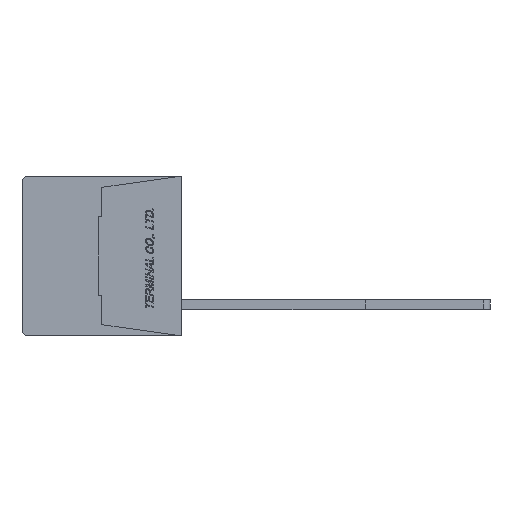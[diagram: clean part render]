
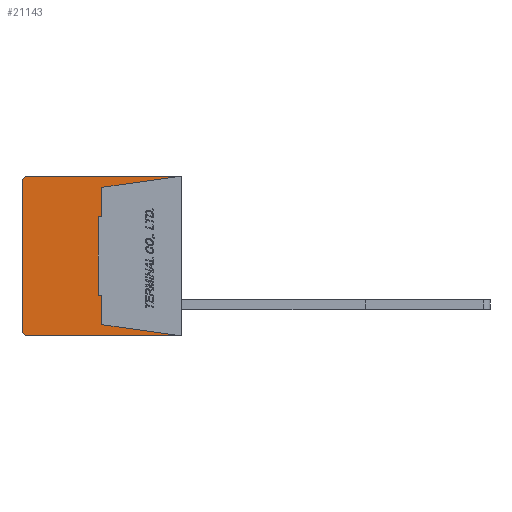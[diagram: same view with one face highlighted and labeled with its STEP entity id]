
A CAD part, left-side view. The second image highlights one B-rep face of the part: STEP entity #21143.
In plain terms, the highlighted planar face has unit normal (-1, 0, 0).
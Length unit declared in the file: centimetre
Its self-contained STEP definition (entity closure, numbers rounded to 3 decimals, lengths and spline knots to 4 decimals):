
#1123=CIRCLE('',#36068,0.05);
#1124=CIRCLE('',#36071,0.05);
#2140=VERTEX_POINT('',#30066);
#2141=VERTEX_POINT('',#30068);
#2142=VERTEX_POINT('',#30072);
#2143=VERTEX_POINT('',#30076);
#2144=VERTEX_POINT('',#30080);
#2145=VERTEX_POINT('',#30084);
#2146=VERTEX_POINT('',#30087);
#2147=VERTEX_POINT('',#30089);
#2148=VERTEX_POINT('',#30091);
#2149=VERTEX_POINT('',#30093);
#2150=VERTEX_POINT('',#30095);
#2151=VERTEX_POINT('',#30097);
#4326=VECTOR('',#24543,1.);
#4330=VECTOR('',#24552,1.);
#4333=VECTOR('',#24560,1.);
#4334=VECTOR('',#24561,1.);
#4335=VECTOR('',#24562,1.);
#4336=VECTOR('',#24563,1.);
#4337=VECTOR('',#24564,1.);
#4338=VECTOR('',#24565,1.);
#4339=VECTOR('',#24566,1.);
#4340=VECTOR('',#24567,1.);
#6811=LINE('',#30067,#4326);
#6815=LINE('',#30077,#4330);
#6818=LINE('',#30085,#4333);
#6819=LINE('',#30086,#4334);
#6820=LINE('',#30088,#4335);
#6821=LINE('',#30090,#4336);
#6822=LINE('',#30092,#4337);
#6823=LINE('',#30094,#4338);
#6824=LINE('',#30096,#4339);
#6825=LINE('',#30098,#4340);
#9657=EDGE_CURVE('',#2141,#2140,#6811,.T.);
#9660=EDGE_CURVE('',#2142,#2140,#1123,.T.);
#9662=EDGE_CURVE('',#2142,#2143,#6815,.T.);
#9664=EDGE_CURVE('',#2144,#2143,#1124,.T.);
#9666=EDGE_CURVE('',#2144,#2145,#6818,.T.);
#9667=EDGE_CURVE('',#2146,#2141,#6819,.T.);
#9668=EDGE_CURVE('',#2145,#2147,#6820,.T.);
#9669=EDGE_CURVE('',#2147,#2148,#6821,.T.);
#9670=EDGE_CURVE('',#2148,#2149,#6822,.T.);
#9671=EDGE_CURVE('',#2149,#2150,#6823,.T.);
#9672=EDGE_CURVE('',#2150,#2151,#6824,.T.);
#9673=EDGE_CURVE('',#2151,#2146,#6825,.T.);
#14063=ORIENTED_EDGE('',*,*,#9667,.T.);
#14064=ORIENTED_EDGE('',*,*,#9657,.T.);
#14065=ORIENTED_EDGE('',*,*,#9660,.F.);
#14066=ORIENTED_EDGE('',*,*,#9662,.T.);
#14067=ORIENTED_EDGE('',*,*,#9664,.F.);
#14068=ORIENTED_EDGE('',*,*,#9666,.T.);
#14069=ORIENTED_EDGE('',*,*,#9668,.T.);
#14070=ORIENTED_EDGE('',*,*,#9669,.T.);
#14071=ORIENTED_EDGE('',*,*,#9670,.T.);
#14072=ORIENTED_EDGE('',*,*,#9671,.T.);
#14073=ORIENTED_EDGE('',*,*,#9672,.T.);
#14074=ORIENTED_EDGE('',*,*,#9673,.T.);
#18471=EDGE_LOOP('',(#14063,#14064,#14065,#14066,#14067,#14068,#14069,#14070,
#14071,#14072,#14073,#14074));
#19846=FACE_BOUND('',#18471,.T.);
#21143=ADVANCED_FACE('',(#19846),#22226,.F.);
#22226=PLANE('',#36065);
#24429=DIRECTION('',(1.,0.,0.));
#24543=DIRECTION('',(0.,1.,0.));
#24548=DIRECTION('',(1.,0.,0.));
#24549=DIRECTION('',(0.,0.,-0.05));
#24552=DIRECTION('',(0.,0.,-1.));
#24556=DIRECTION('',(1.,0.,0.));
#24557=DIRECTION('',(0.,0.,-0.05));
#24560=DIRECTION('',(0.,-1.,0.));
#24561=DIRECTION('',(0.,-0.99,0.139));
#24562=DIRECTION('',(0.,0.99,0.139));
#24563=DIRECTION('',(0.,0.,1.));
#24564=DIRECTION('',(0.,1.,0.));
#24565=DIRECTION('',(0.,0.,1.));
#24566=DIRECTION('',(0.,-1.,0.));
#24567=DIRECTION('',(0.,0.,1.));
#29633=CARTESIAN_POINT('',(-0.889,0.6345,0.));
#30066=CARTESIAN_POINT('',(-0.889,1.23,0.64));
#30067=CARTESIAN_POINT('',(-0.889,0.,0.64));
#30068=CARTESIAN_POINT('',(-0.889,0.,0.64));
#30072=CARTESIAN_POINT('',(-0.889,1.28,0.59));
#30073=CARTESIAN_POINT('',(-0.889,1.23,0.59));
#30076=CARTESIAN_POINT('',(-0.889,1.28,-0.59));
#30077=CARTESIAN_POINT('',(-0.889,1.28,0.59));
#30080=CARTESIAN_POINT('',(-0.889,1.23,-0.64));
#30081=CARTESIAN_POINT('',(-0.889,1.23,-0.59));
#30084=CARTESIAN_POINT('',(-0.889,0.,-0.64));
#30085=CARTESIAN_POINT('',(-0.889,1.23,-0.64));
#30086=CARTESIAN_POINT('',(-0.889,0.64,0.55));
#30087=CARTESIAN_POINT('',(-0.889,0.64,0.55));
#30088=CARTESIAN_POINT('',(-0.889,0.,-0.64));
#30089=CARTESIAN_POINT('',(-0.889,0.64,-0.55));
#30090=CARTESIAN_POINT('',(-0.889,0.64,-0.55));
#30091=CARTESIAN_POINT('',(-0.889,0.64,-0.315));
#30092=CARTESIAN_POINT('',(-0.889,0.64,-0.315));
#30093=CARTESIAN_POINT('',(-0.889,0.67,-0.315));
#30094=CARTESIAN_POINT('',(-0.889,0.67,-0.315));
#30095=CARTESIAN_POINT('',(-0.889,0.67,0.315));
#30096=CARTESIAN_POINT('',(-0.889,0.67,0.315));
#30097=CARTESIAN_POINT('',(-0.889,0.64,0.315));
#30098=CARTESIAN_POINT('',(-0.889,0.64,0.315));
#36065=AXIS2_PLACEMENT_3D('',#29633,#24429,$);
#36068=AXIS2_PLACEMENT_3D('',#30073,#24548,#24549);
#36071=AXIS2_PLACEMENT_3D('',#30081,#24556,#24557);
